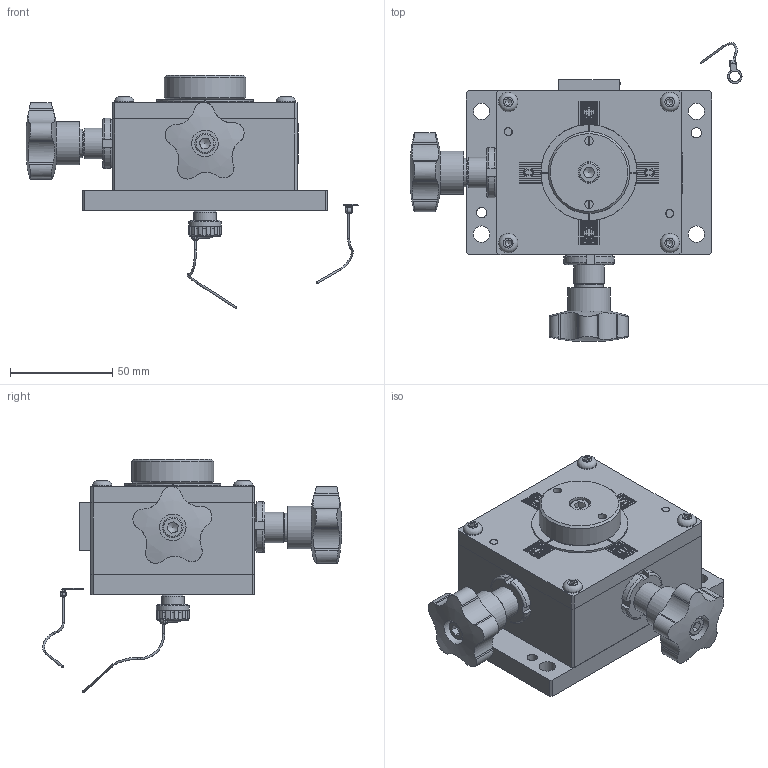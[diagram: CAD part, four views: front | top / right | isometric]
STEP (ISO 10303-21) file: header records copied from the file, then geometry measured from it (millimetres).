
FILE_DESCRIPTION(/* description */ (''),/* implementation_level */ '2;1');
FILE_NAME(/* name */ 'C:\Local Work Area\Progetti\AP\CALIBRI\146.00 Posizionatore\146.00\146.00-SX.stp',/* time_stamp */ '2020-02-20T14:57:58+01:00',/* author */ ('CAD5'),/* organization */ (''),/* preprocessor_version */ 'ST-DEVELOPER v17.2',/* originating_system */ 'Autodesk Inventor 2019',/* authorisation */ '');
FILE_SCHEMA (('AUTOMOTIVE_DESIGN { 1 0 10303 214 3 1 1 }'));
Length unit declared in the file: millimetre
Products named in the file (33): 146.00-SX; 146.03; 146.01; 146.07; 146.02; 146.00_002 Ass manopola-01; 146.09; UNI 5931 - M 6 x  30; Manopola mecanoplastica 12010250; 146.10; UNI 5933 - M4 x 20; UNI 5923 - M6 x 1 x 8; B12.5 UNI8773; GHIERA M15x1 KM2; UNI 5931 - M5 x 0,8 x 16; ISO 2338 - 5 m6 x 20 - A; Copia di ISO 7380 - M5 x 16; 146.06; UNI 5927 - M5 x 6; 146.00_001 Attrezzatura; 146.04; 146.05; UNI 5931 - M 6 x  20; 146.00 Ass spina; ISO 8735 - 8 x 35 - A; VOLANTINO ZIGRINATO - 130 10 100; catenella; catenella-1; catenella-2; UNI ISO 7380 - M5 x 20; TAPPO_001; ISO 8734 - Ø4 x 16 - A (AP); 146.11
Assembly tree (43 placements, depth 4):
  146.00-SX
    146.03
    146.01
    146.07
    146.02
    146.00_002 Ass manopola-01  x2
      146.09
      UNI 5931 - M 6 x  30
      Manopola mecanoplastica 12010250
      146.10
      UNI 5933 - M4 x 20
      UNI 5923 - M6 x 1 x 8
      B12.5 UNI8773
    GHIERA M15x1 KM2  x2
    UNI 5931 - M5 x 0,8 x 16  x4
    ISO 2338 - 5 m6 x 20 - A  x2
    Copia di ISO 7380 - M5 x 16  x4
    146.06
    UNI 5927 - M5 x 6
    146.00_001 Attrezzatura
      146.04
      146.05
      UNI 5931 - M 6 x  20
    146.00 Ass spina
      ISO 8735 - 8 x 35 - A
      VOLANTINO ZIGRINATO - 130 10 100
      catenella
        catenella-1
        catenella-2
      UNI ISO 7380 - M5 x 20
    TAPPO_001
    ISO 8734 - Ø4 x 16 - A (AP)  x2
    146.11
Bounding box: 162.33 x 146.22 x 114.1 mm (x, y, z)
Volume: 410452.4 mm3; surface area: 140228.8 mm2
Topology: 48 solids, 48 shells, 1121 faces, 2910 edges, 1984 vertices
Faces by surface type: plane 691, cylinder 224, cone 96, bspline 56, torus 53, sphere 1
Full cylindrical faces by diameter (mm): 1 x6, 3.242 x2, 4 x8, 4.1 x2, 4.134 x12, 4.135 x1, 4.917 x5, 5 x23, 5.2 x2, 5.3 x1, 5.333 x1, 6 x7, 6.1 x1, 6.4 x4, 6.5 x4, 7.64 x2, 8 x15, 8.5 x4, 9 x4, 9.5 x5, 10 x3, 10.5 x1, 11 x1, 11.5 x6, 12 x5, 12.9 x1, 13 x2, 13.867 x1, 13.9 x1, 13.917 x3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
Entity records: 30142 total; most frequent: CARTESIAN_POINT 6597, ORIENTED_EDGE 4580, DIRECTION 4475, EDGE_CURVE 2290, VERTEX_POINT 1574, AXIS2_PLACEMENT_3D 1527, LINE 1421, VECTOR 1421
